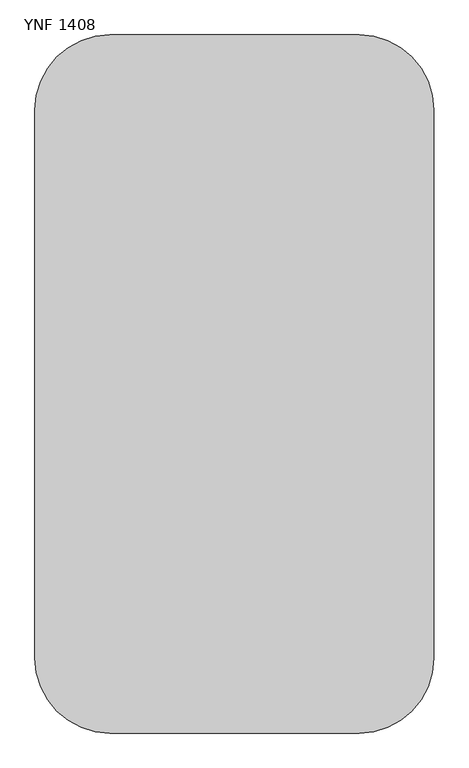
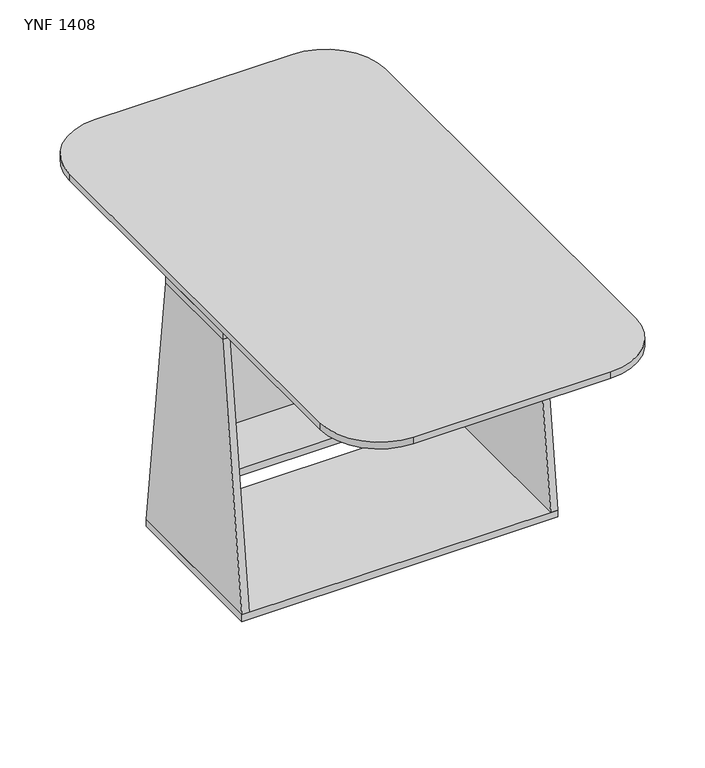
"""IFC4 building model written with IfcOpenShell, lengths in millimetres: furniture geometry, Mobiliário_Mobiliário de Escritório_LinhaYoung_Mesa de Nicho Fixa - YNF 1408_Marelli : YNF 1408."""

from ifc_helpers import new_model, si_unit, point, frame, frame_2d, origin, origin_with_axes, place, context, project, spatial, polyline, circle_curve, trimmed, segment, composite_curve, outline, extrude, source, transform, mapped, element, save


def ynf_1408_52790276(model_context):
    return source(origin(), model_context, "Body", "SweptSolid", [
        extrude(outline(composite_curve([segment(polyline([(650.0, 0.0), (150.0, 0.0)]), True, "CONTINUOUS"), segment(trimmed(circle_curve(frame_2d((150.0, 150.0)), 150.0), [point((150.0, 0.0))], [point((0.0, 150.0))], False, "CARTESIAN"), True, "CONTINUOUS"), segment(polyline([(0.0, 150.0), (0.0, 1250.0)]), True, "CONTINUOUS"), segment(trimmed(circle_curve(frame_2d((150.0, 1250.0)), 150.0), [point((0.0, 1250.0))], [point((150.0, 1400.0))], False, "CARTESIAN"), True, "CONTINUOUS"), segment(polyline([(150.0, 1400.0), (650.0, 1400.0)]), True, "CONTINUOUS"), segment(trimmed(circle_curve(frame_2d((650.0, 1250.0)), 150.0), [point((650.0, 1400.0))], [point((800.0, 1250.0))], False, "CARTESIAN"), True, "CONTINUOUS"), segment(polyline([(800.0, 1250.0), (800.0, 150.0)]), True, "CONTINUOUS"), segment(trimmed(circle_curve(frame_2d((650.0, 150.0)), 150.0), [point((800.0, 150.0))], [point((650.0, 0.0))], False, "CARTESIAN"), True, "CONTINUOUS")], self_intersect=False)), frame((0.0, 0.0, 722.0), z_axis=(0.0, 0.0, 1.0), x_axis=(1.0, 0.0, 0.0)), (0.0, 0.0, 1.0), 18.0),
        extrude(outline(polyline([(800.0, 827.1796789), (800.0, 577.1796789), (0.0, 577.1796789), (0.0, 827.1796789), (800.0, 827.1796789)])), frame((0.0, 0.0, 704.0), z_axis=(0.0, 0.0, 1.0), x_axis=(1.0, 0.0, 0.0)), (0.0, 0.0, 1.0), 18.0),
        extrude(outline(polyline([(800.0, 912.1796789), (800.0, 492.1796789), (0.0, 492.1796789), (0.0, 912.1796789), (800.0, 912.1796789)])), origin_with_axes(), (0.0, 0.0, 1.0), 18.0),
        extrude(outline(polyline([(782.0, 867.1796789), (782.0, 537.1796789), (18.0, 537.1796789), (18.0, 867.1796789), (782.0, 867.1796789)])), frame((0.0, 0.0, 356.0), z_axis=(0.0, 0.0, 1.0), x_axis=(1.0, 0.0, 0.0)), (0.0, 0.0, 1.0), 18.0),
        extrude(outline(polyline([(492.1796789, 18.0), (577.1796789, 704.0), (827.1796789, 704.0), (912.1796789, 18.0), (492.1796789, 18.0)])), frame((0.0, 0.0, 0.0), z_axis=(1.0, 0.0, 0.0), x_axis=(0.0, 1.0, 0.0)), (0.0, 0.0, 1.0), 18.0),
        extrude(outline(polyline([(492.1796789, 18.0), (577.1796789, 704.0), (827.1796789, 704.0), (912.1796789, 18.0), (492.1796789, 18.0)])), frame((782.0, 0.0, 0.0), z_axis=(1.0, 0.0, 0.0), x_axis=(0.0, 1.0, 0.0)), (0.0, 0.0, 1.0), 18.0),
        extrude(outline(polyline([(782.0, 711.1796789), (782.0, 693.1796789), (18.0, 693.1796789), (18.0, 711.1796789), (782.0, 711.1796789)])), frame((0.0, 0.0, 374.0), z_axis=(0.0, 0.0, 1.0), x_axis=(1.0, 0.0, 0.0)), (0.0, 0.0, 1.0), 330.0),
    ])


if __name__ == "__main__":
    model = new_model("IFC4")
    model_context = context("Model", 3, world=origin())
    ifc_project = project(units=[si_unit("LENGTHUNIT", "METRE", prefix="MILLI")], contexts=[model_context])
    site = spatial("IfcSite", under=ifc_project)
    building = spatial("IfcBuilding", under=site)
    placement = place(None, origin())
    ynf_1408_shape = ynf_1408_52790276(model_context)
    element("IfcFurniture", 1, ObjectType="Mobiliário_Mobiliário de Escritório_LinhaYoung_Mesa de Nicho Fixa - YNF 1408_Marelli : YNF 1408", at=placement, inside=building, context=model_context, shape_type="MappedRepresentation", body=[
        mapped(ynf_1408_shape, transform((0.0, 0.0, 0.0), x_axis=(1.0, 0.0, 0.0), y_axis=(0.0, 1.0, 0.0), z_axis=(0.0, 0.0, 1.0))),
    ])
    save(model, "model.ifc")
